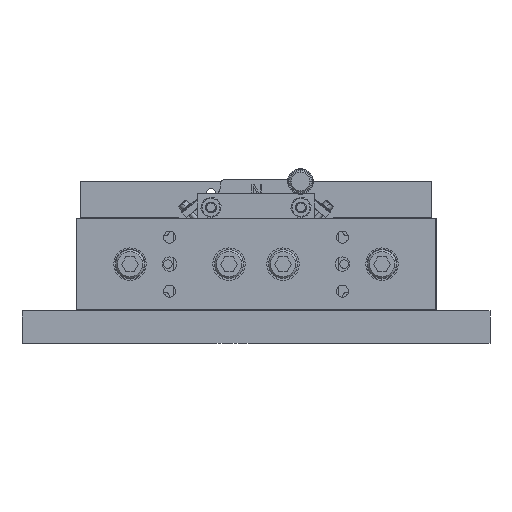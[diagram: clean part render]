
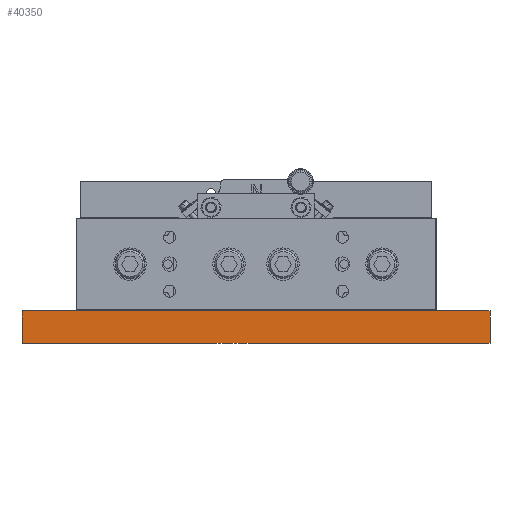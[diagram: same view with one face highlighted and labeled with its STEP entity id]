
A CAD part, front view. The second image highlights one B-rep face of the part: STEP entity #40350.
In plain terms, the highlighted planar face has unit normal (0, -1, 0).
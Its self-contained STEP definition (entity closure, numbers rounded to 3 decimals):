
#1760=PLANE('',#42981);
#3133=FACE_OUTER_BOUND('',#5554,.T.);
#5554=EDGE_LOOP('',(#26213,#26214,#26215,#26216));
#8474=LINE('',#59262,#11498);
#8507=LINE('',#59495,#11531);
#8510=LINE('',#59501,#11534);
#8511=LINE('',#59503,#11535);
#11498=VECTOR('',#47352,10.);
#11531=VECTOR('',#47621,10.);
#11534=VECTOR('',#47628,10.);
#11535=VECTOR('',#47631,10.);
#16603=VERTEX_POINT('',#59259);
#16604=VERTEX_POINT('',#59261);
#16685=VERTEX_POINT('',#59491);
#16687=VERTEX_POINT('',#59499);
#20349=EDGE_CURVE('',#16604,#16603,#8474,.T.);
#20460=EDGE_CURVE('',#16685,#16604,#8507,.T.);
#20463=EDGE_CURVE('',#16603,#16687,#8510,.T.);
#20464=EDGE_CURVE('',#16687,#16685,#8511,.T.);
#26213=ORIENTED_EDGE('',*,*,#20464,.T.);
#26214=ORIENTED_EDGE('',*,*,#20460,.T.);
#26215=ORIENTED_EDGE('',*,*,#20349,.T.);
#26216=ORIENTED_EDGE('',*,*,#20463,.T.);
#40350=ADVANCED_FACE('',(#3133),#1760,.T.);
#42981=AXIS2_PLACEMENT_3D('',#59502,#47629,#47630);
#47352=DIRECTION('',(1.,0.,0.));
#47621=DIRECTION('',(0.,0.,-1.));
#47628=DIRECTION('',(0.,0.,1.));
#47629=DIRECTION('center_axis',(0.,-1.,0.));
#47630=DIRECTION('ref_axis',(0.,0.,-1.));
#47631=DIRECTION('',(-1.,0.,0.));
#59259=CARTESIAN_POINT('',(130.,-69.85,-9.));
#59261=CARTESIAN_POINT('',(-130.,-69.85,-9.));
#59262=CARTESIAN_POINT('',(-130.,-69.85,-9.));
#59491=CARTESIAN_POINT('',(-130.,-69.85,9.));
#59495=CARTESIAN_POINT('',(-130.,-69.85,0.));
#59499=CARTESIAN_POINT('',(130.,-69.85,9.));
#59501=CARTESIAN_POINT('',(130.,-69.85,0.));
#59502=CARTESIAN_POINT('Origin',(130.,-69.85,0.));
#59503=CARTESIAN_POINT('',(-130.,-69.85,9.));
